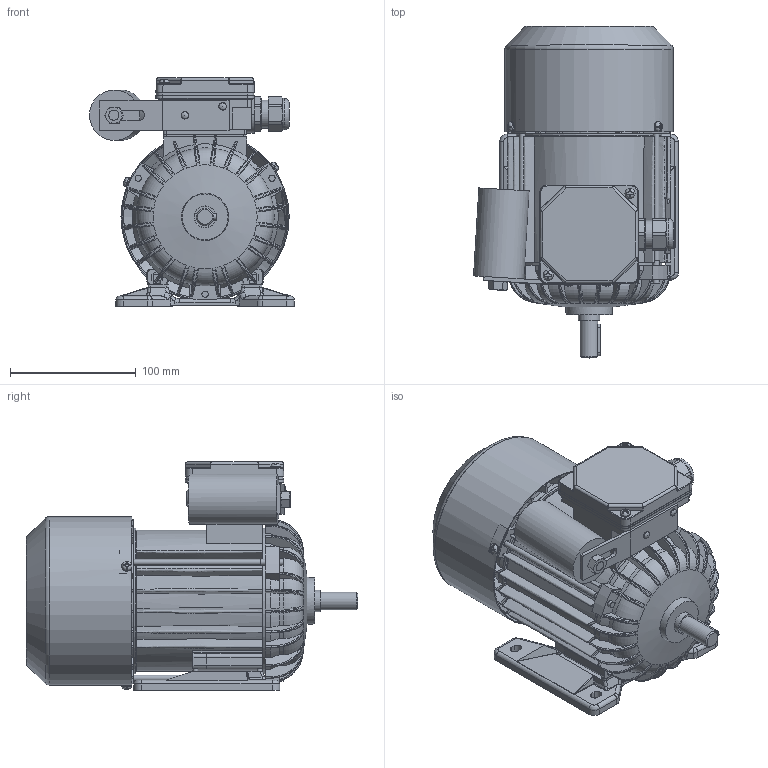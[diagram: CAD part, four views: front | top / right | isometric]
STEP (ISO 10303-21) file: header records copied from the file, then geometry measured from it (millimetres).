
FILE_DESCRIPTION(/* description */ ('Unknown'),/* implementation_level */ '2;1');
FILE_NAME(/* name */ '3SSIE71-2B',/* time_stamp */ '2024-06-27T12:51:39+02:00',/* author */ ('Unknown'),/* organization */ ('Unknown'),/* preprocessor_version */ 'ST-DEVELOPER v16.7',/* originating_system */ 'Solid Edge',/* authorisation */ 'Unknown');
FILE_SCHEMA (('AUTOMOTIVE_DESIGN {1 0 10303 214 3 1 1}'));
Products named in the file (1): Czêœæ5
Bounding box: 162.7 x 263.47 x 181.5 mm (x, y, z)
Volume: 778146 mm3; surface area: 434941.9 mm2
Topology: 1 solids, 1 shells, 3029 faces, 8369 edges, 5287 vertices
Faces by surface type: plane 1130, cylinder 792, bspline 609, torus 276, cone 188, sphere 34
Full cylindrical faces by diameter (mm): 3 x1, 3.7 x4, 3.8 x4, 4 x4, 4.3 x2, 4.5 x2, 4.6 x3, 4.8 x2, 5 x8, 5.5 x3, 5.8 x4, 6 x2, 6.5 x1, 7 x1, 8 x10, 13.997 x1, 15.897 x1, 16.097 x1, 16.497 x1, 16.997 x2, 17.4 x2, 21.996 x2, 22.3 x1, 22.496 x1, 23.095 x1, 23.995 x1, 24.493 x4, 25 x1, 28 x2, 30 x1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
Entity records: 131626 total; most frequent: CARTESIAN_POINT 39597, ORIENTED_EDGE 15974, DIRECTION 13181, EDGE_CURVE 7987, VERTEX_POINT 5158, AXIS2_PLACEMENT_3D 5031, FACE_BOUND 3449, EDGE_LOOP 3445
